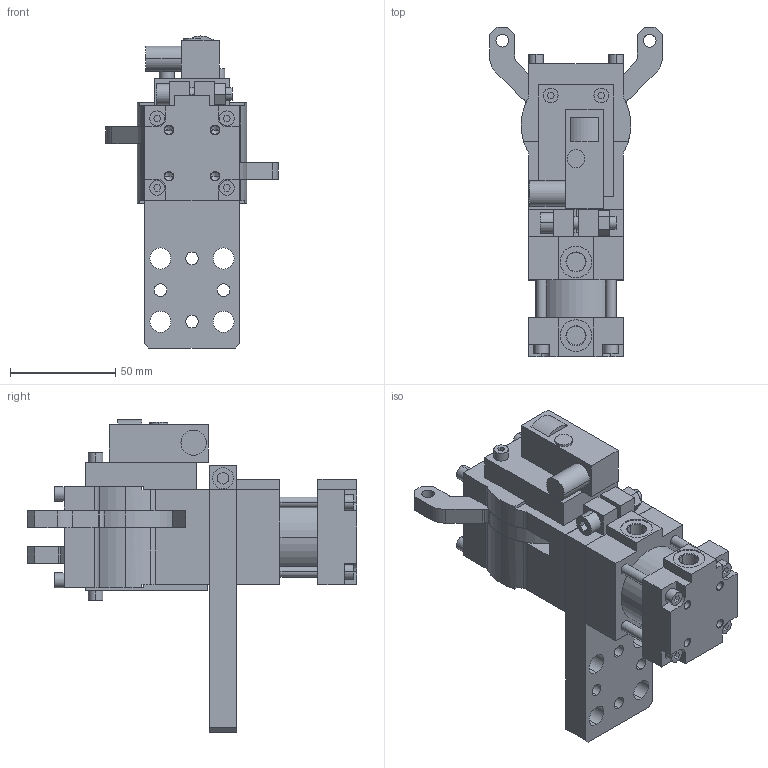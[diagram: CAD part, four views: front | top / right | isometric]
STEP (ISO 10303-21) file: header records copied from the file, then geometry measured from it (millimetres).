
FILE_DESCRIPTION (( 'STEP AP214' ), '1' );
FILE_NAME ('b32_bxsx_pla___x_a.STEP', '2018-05-08T12:54:26', ( 'vepadmin' ), ( 'Hewlett-Packard Company' ), 'SwSTEP 2.0', 'SolidWorks 2018', '' );
FILE_SCHEMA (( 'AUTOMOTIVE_DESIGN' ));
Length unit declared in the file: millimetre
Products named in the file (8): scatola_micro_b32; piastra_a_b32; leva_b32b; gruppo_montante_b32b; b32_bxsx_pla___x_a; gruppo_cilindro_b32; riparo_micro_b32; blocchetto_p&f_90
Assembly tree (8 placements, depth 2):
  b32_bxsx_pla___x_a
    gruppo_montante_b32b
    leva_b32b  x2
    piastra_a_b32
    scatola_micro_b32
    blocchetto_p&f_90
    riparo_micro_b32
    gruppo_cilindro_b32
Bounding box: 82 x 156.5 x 148.1 mm (x, y, z)
Volume: 349781.3 mm3; surface area: 94064.8 mm2
Topology: 8 solids, 8 shells, 477 faces, 1223 edges, 800 vertices
Faces by surface type: plane 291, cylinder 164, cone 22
Entity records: 14362 total; most frequent: DIRECTION 2375, CARTESIAN_POINT 2345, ORIENTED_EDGE 2274, EDGE_CURVE 1137, VECTOR 819, LINE 819, AXIS2_PLACEMENT_3D 778, VERTEX_POINT 748
